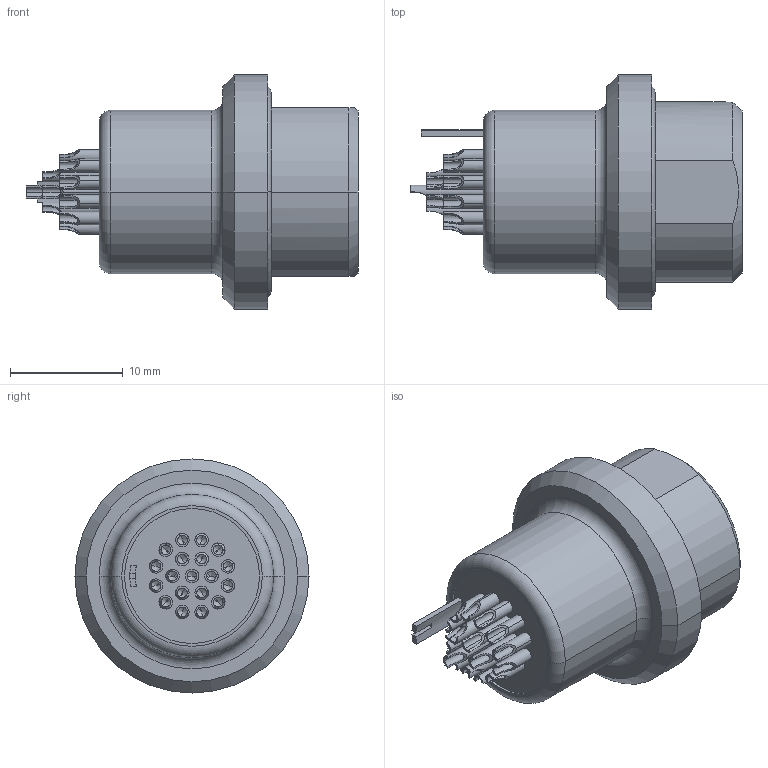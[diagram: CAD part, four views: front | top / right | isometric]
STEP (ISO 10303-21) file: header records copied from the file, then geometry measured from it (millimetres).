
FILE_DESCRIPTION((''),'2;1');
FILE_NAME('G82Y_R-P19WFG0-000L_WITHOUT-HEX','2020-10-23T11:33:00',('EUnterhaslberger'),(''),'CREO PARAMETRIC BY PTC INC, 2018300','CREO PARAMETRIC BY PTC INC, 2018300','');
FILE_SCHEMA(('AP242_MANAGED_MODEL_BASED_3D_ENGINEERING_MIM_LF { 1 0 10303 442 1 1 4 }'));
Length unit declared in the file: millimetre
Products named in the file (1): G82Y_R-P19WFG0-000L_WITHOUT-HEX
Bounding box: 29.5 x 20.8 x 20.8 mm (x, y, z)
Volume: 3887.5 mm3; surface area: 4124.7 mm2
Topology: 2 solids, 3 shells, 410 faces, 1087 edges, 689 vertices
Faces by surface type: cylinder 146, plane 136, cone 93, torus 34, sphere 1
Entity records: 16052 total; most frequent: CARTESIAN_POINT 3426, DIRECTION 2204, ORIENTED_EDGE 2098, EDGE_CURVE 1049, AXIS2_PLACEMENT_3D 857, VERTEX_POINT 689, VECTOR 490, LINE 490
